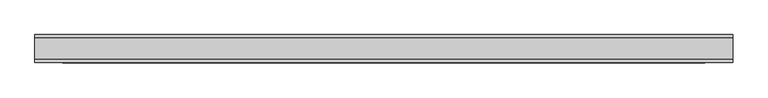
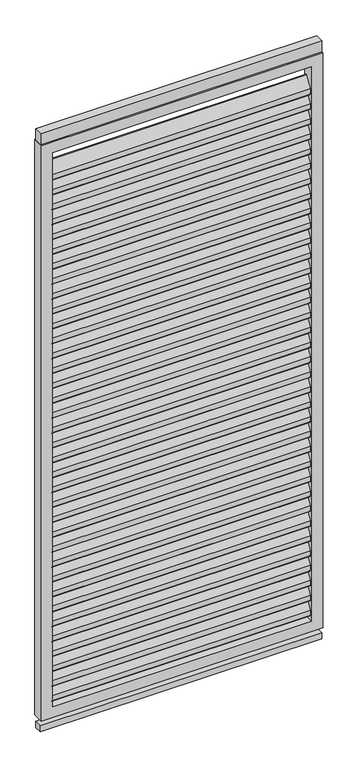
"""IFC4 building model written with IfcOpenShell, lengths in millimetres: proxy geometry, Renson_Camargue_Loggia_Paro_Privacy_Aluminium : Renson_Camargue_Loggia_Paro_Privacy_Aluminium."""

from ifc_helpers import new_model, si_unit, point, frame, frame_2d, origin, origin_with_axes, place, context, project, spatial, polyline, circle_curve, trimmed, segment, composite_curve, outline, extrude, source, transform, mapped, element, save


def generic_models_be22ee1f(model_context):
    return source(origin(), model_context, "Body", "SweptSolid", [
        extrude(outline(composite_curve([segment(trimmed(circle_curve(frame_2d((12.6675921, 2117.7067127)), 3.0), [point((10.1515804, 2119.3406298))], [point((15.6675921, 2117.7067127))], False, "CARTESIAN"), True, "CONTINUOUS"), segment(polyline([(15.6675921, 2117.7067127), (15.6675921, 2099.3459282)]), True, "CONTINUOUS"), segment(trimmed(circle_curve(frame_2d((12.6675921, 2099.3459282)), 3.0), [point((15.6675921, 2099.3459282))], [point((15.1836038, 2097.7120111))], False, "CARTESIAN"), True, "CONTINUOUS"), segment(polyline([(15.1836038, 2097.7120111), (-8.8163962, 2060.7552519)]), True, "CONTINUOUS"), segment(trimmed(circle_curve(frame_2d((-11.3324079, 2062.389169)), 3.0), [point((-8.8163962, 2060.7552519))], [point((-14.3324079, 2062.389169))], False, "CARTESIAN"), True, "CONTINUOUS"), segment(polyline([(-14.3324079, 2062.389169), (-14.3324079, 2081.6385941), (10.1515804, 2119.3406298)]), True, "CONTINUOUS")], self_intersect=False)), frame((-460.0, 0.0, 0.0), z_axis=(1.0, 0.0, 0.0), x_axis=(0.0, 1.0, 0.0)), (0.0, 0.0, 1.0), 920.0),
        extrude(outline(composite_curve([segment(trimmed(circle_curve(frame_2d((12.6675921, 2061.7347145)), 3.0), [point((10.1515804, 2063.3686316))], [point((15.6675921, 2061.7347145))], False, "CARTESIAN"), True, "CONTINUOUS"), segment(polyline([(15.6675921, 2061.7347145), (15.6675921, 2043.3739299)]), True, "CONTINUOUS"), segment(trimmed(circle_curve(frame_2d((12.6675921, 2043.3739299)), 3.0), [point((15.6675921, 2043.3739299))], [point((15.1836038, 2041.7400128))], False, "CARTESIAN"), True, "CONTINUOUS"), segment(polyline([(15.1836038, 2041.7400128), (-8.8163962, 2004.7832537)]), True, "CONTINUOUS"), segment(trimmed(circle_curve(frame_2d((-11.3324079, 2006.4171708)), 3.0), [point((-8.8163962, 2004.7832537))], [point((-14.3324079, 2006.4171708))], False, "CARTESIAN"), True, "CONTINUOUS"), segment(polyline([(-14.3324079, 2006.4171708), (-14.3324079, 2025.6665958), (10.1515804, 2063.3686316)]), True, "CONTINUOUS")], self_intersect=False)), frame((-460.0, 0.0, 0.0), z_axis=(1.0, 0.0, 0.0), x_axis=(0.0, 1.0, 0.0)), (0.0, 0.0, 1.0), 920.0),
        extrude(outline(composite_curve([segment(trimmed(circle_curve(frame_2d((12.6675921, 2005.7627162)), 3.0), [point((10.1515804, 2007.3966333))], [point((15.6675921, 2005.7627162))], False, "CARTESIAN"), True, "CONTINUOUS"), segment(polyline([(15.6675921, 2005.7627162), (15.6675921, 1987.4019316)]), True, "CONTINUOUS"), segment(trimmed(circle_curve(frame_2d((12.6675921, 1987.4019316)), 3.0), [point((15.6675921, 1987.4019316))], [point((15.1836038, 1985.7680145))], False, "CARTESIAN"), True, "CONTINUOUS"), segment(polyline([(15.1836038, 1985.7680145), (-8.8163962, 1948.8112554)]), True, "CONTINUOUS"), segment(trimmed(circle_curve(frame_2d((-11.3324079, 1950.4451725)), 3.0), [point((-8.8163962, 1948.8112554))], [point((-14.3324079, 1950.4451725))], False, "CARTESIAN"), True, "CONTINUOUS"), segment(polyline([(-14.3324079, 1950.4451725), (-14.3324079, 1969.6945976), (10.1515804, 2007.3966333)]), True, "CONTINUOUS")], self_intersect=False)), frame((-460.0, 0.0, 0.0), z_axis=(1.0, 0.0, 0.0), x_axis=(0.0, 1.0, 0.0)), (0.0, 0.0, 1.0), 920.0),
        extrude(outline(composite_curve([segment(trimmed(circle_curve(frame_2d((12.6675921, 1949.790718)), 3.0), [point((10.1515804, 1951.4246351))], [point((15.6675921, 1949.790718))], False, "CARTESIAN"), True, "CONTINUOUS"), segment(polyline([(15.6675921, 1949.790718), (15.6675921, 1931.4299334)]), True, "CONTINUOUS"), segment(trimmed(circle_curve(frame_2d((12.6675921, 1931.4299334)), 3.0), [point((15.6675921, 1931.4299334))], [point((15.1836038, 1929.7960163))], False, "CARTESIAN"), True, "CONTINUOUS"), segment(polyline([(15.1836038, 1929.7960163), (-8.8163962, 1892.8392571)]), True, "CONTINUOUS"), segment(trimmed(circle_curve(frame_2d((-11.3324079, 1894.4731742)), 3.0), [point((-8.8163962, 1892.8392571))], [point((-14.3324079, 1894.4731742))], False, "CARTESIAN"), True, "CONTINUOUS"), segment(polyline([(-14.3324079, 1894.4731742), (-14.3324079, 1913.7225993), (10.1515804, 1951.4246351)]), True, "CONTINUOUS")], self_intersect=False)), frame((-460.0, 0.0, 0.0), z_axis=(1.0, 0.0, 0.0), x_axis=(0.0, 1.0, 0.0)), (0.0, 0.0, 1.0), 920.0),
        extrude(outline(composite_curve([segment(trimmed(circle_curve(frame_2d((12.6675921, 1893.8187197)), 3.0), [point((10.1515804, 1895.4526368))], [point((15.6675921, 1893.8187197))], False, "CARTESIAN"), True, "CONTINUOUS"), segment(polyline([(15.6675921, 1893.8187197), (15.6675921, 1875.4579351)]), True, "CONTINUOUS"), segment(trimmed(circle_curve(frame_2d((12.6675921, 1875.4579351)), 3.0), [point((15.6675921, 1875.4579351))], [point((15.1836038, 1873.824018))], False, "CARTESIAN"), True, "CONTINUOUS"), segment(polyline([(15.1836038, 1873.824018), (-8.8163962, 1836.8672589)]), True, "CONTINUOUS"), segment(trimmed(circle_curve(frame_2d((-11.3324079, 1838.501176)), 3.0), [point((-8.8163962, 1836.8672589))], [point((-14.3324079, 1838.501176))], False, "CARTESIAN"), True, "CONTINUOUS"), segment(polyline([(-14.3324079, 1838.501176), (-14.3324079, 1857.7506011), (10.1515804, 1895.4526368)]), True, "CONTINUOUS")], self_intersect=False)), frame((-460.0, 0.0, 0.0), z_axis=(1.0, 0.0, 0.0), x_axis=(0.0, 1.0, 0.0)), (0.0, 0.0, 1.0), 920.0),
        extrude(outline(composite_curve([segment(trimmed(circle_curve(frame_2d((12.6675921, 1837.8467214)), 3.0), [point((10.1515804, 1839.4806385))], [point((15.6675921, 1837.8467214))], False, "CARTESIAN"), True, "CONTINUOUS"), segment(polyline([(15.6675921, 1837.8467214), (15.6675921, 1819.4859368)]), True, "CONTINUOUS"), segment(trimmed(circle_curve(frame_2d((12.6675921, 1819.4859368)), 3.0), [point((15.6675921, 1819.4859368))], [point((15.1836038, 1817.8520197))], False, "CARTESIAN"), True, "CONTINUOUS"), segment(polyline([(15.1836038, 1817.8520197), (-8.8163962, 1780.8952606)]), True, "CONTINUOUS"), segment(trimmed(circle_curve(frame_2d((-11.3324079, 1782.5291777)), 3.0), [point((-8.8163962, 1780.8952606))], [point((-14.3324079, 1782.5291777))], False, "CARTESIAN"), True, "CONTINUOUS"), segment(polyline([(-14.3324079, 1782.5291777), (-14.3324079, 1801.7786028), (10.1515804, 1839.4806385)]), True, "CONTINUOUS")], self_intersect=False)), frame((-460.0, 0.0, 0.0), z_axis=(1.0, 0.0, 0.0), x_axis=(0.0, 1.0, 0.0)), (0.0, 0.0, 1.0), 920.0),
        extrude(outline(composite_curve([segment(trimmed(circle_curve(frame_2d((12.6675921, 1781.8747232)), 3.0), [point((10.1515804, 1783.5086403))], [point((15.6675921, 1781.8747232))], False, "CARTESIAN"), True, "CONTINUOUS"), segment(polyline([(15.6675921, 1781.8747232), (15.6675921, 1763.5139386)]), True, "CONTINUOUS"), segment(trimmed(circle_curve(frame_2d((12.6675921, 1763.5139386)), 3.0), [point((15.6675921, 1763.5139386))], [point((15.1836038, 1761.8800215))], False, "CARTESIAN"), True, "CONTINUOUS"), segment(polyline([(15.1836038, 1761.8800215), (-8.8163962, 1724.9232624)]), True, "CONTINUOUS"), segment(trimmed(circle_curve(frame_2d((-11.3324079, 1726.5571795)), 3.0), [point((-8.8163962, 1724.9232624))], [point((-14.3324079, 1726.5571795))], False, "CARTESIAN"), True, "CONTINUOUS"), segment(polyline([(-14.3324079, 1726.5571795), (-14.3324079, 1745.8066045), (10.1515804, 1783.5086403)]), True, "CONTINUOUS")], self_intersect=False)), frame((-460.0, 0.0, 0.0), z_axis=(1.0, 0.0, 0.0), x_axis=(0.0, 1.0, 0.0)), (0.0, 0.0, 1.0), 920.0),
        extrude(outline(composite_curve([segment(trimmed(circle_curve(frame_2d((12.6675921, 1725.9027249)), 3.0), [point((10.1515804, 1727.536642))], [point((15.6675921, 1725.9027249))], False, "CARTESIAN"), True, "CONTINUOUS"), segment(polyline([(15.6675921, 1725.9027249), (15.6675921, 1707.5419403)]), True, "CONTINUOUS"), segment(trimmed(circle_curve(frame_2d((12.6675921, 1707.5419403)), 3.0), [point((15.6675921, 1707.5419403))], [point((15.1836038, 1705.9080232))], False, "CARTESIAN"), True, "CONTINUOUS"), segment(polyline([(15.1836038, 1705.9080232), (-8.8163962, 1668.9512641)]), True, "CONTINUOUS"), segment(trimmed(circle_curve(frame_2d((-11.3324079, 1670.5851812)), 3.0), [point((-8.8163962, 1668.9512641))], [point((-14.3324079, 1670.5851812))], False, "CARTESIAN"), True, "CONTINUOUS"), segment(polyline([(-14.3324079, 1670.5851812), (-14.3324079, 1689.8346063), (10.1515804, 1727.536642)]), True, "CONTINUOUS")], self_intersect=False)), frame((-460.0, 0.0, 0.0), z_axis=(1.0, 0.0, 0.0), x_axis=(0.0, 1.0, 0.0)), (0.0, 0.0, 1.0), 920.0),
        extrude(outline(composite_curve([segment(trimmed(circle_curve(frame_2d((12.6675921, 1669.9307267)), 3.0), [point((10.1515804, 1671.5646438))], [point((15.6675921, 1669.9307267))], False, "CARTESIAN"), True, "CONTINUOUS"), segment(polyline([(15.6675921, 1669.9307267), (15.6675921, 1651.5699421)]), True, "CONTINUOUS"), segment(trimmed(circle_curve(frame_2d((12.6675921, 1651.5699421)), 3.0), [point((15.6675921, 1651.5699421))], [point((15.1836038, 1649.936025))], False, "CARTESIAN"), True, "CONTINUOUS"), segment(polyline([(15.1836038, 1649.936025), (-8.8163962, 1612.9792658)]), True, "CONTINUOUS"), segment(trimmed(circle_curve(frame_2d((-11.3324079, 1614.6131829)), 3.0), [point((-8.8163962, 1612.9792658))], [point((-14.3324079, 1614.6131829))], False, "CARTESIAN"), True, "CONTINUOUS"), segment(polyline([(-14.3324079, 1614.6131829), (-14.3324079, 1633.862608), (10.1515804, 1671.5646438)]), True, "CONTINUOUS")], self_intersect=False)), frame((-460.0, 0.0, 0.0), z_axis=(1.0, 0.0, 0.0), x_axis=(0.0, 1.0, 0.0)), (0.0, 0.0, 1.0), 920.0),
        extrude(outline(composite_curve([segment(trimmed(circle_curve(frame_2d((12.6675921, 1613.9587284)), 3.0), [point((10.1515804, 1615.5926455))], [point((15.6675921, 1613.9587284))], False, "CARTESIAN"), True, "CONTINUOUS"), segment(polyline([(15.6675921, 1613.9587284), (15.6675921, 1595.5979438)]), True, "CONTINUOUS"), segment(trimmed(circle_curve(frame_2d((12.6675921, 1595.5979438)), 3.0), [point((15.6675921, 1595.5979438))], [point((15.1836038, 1593.9640267))], False, "CARTESIAN"), True, "CONTINUOUS"), segment(polyline([(15.1836038, 1593.9640267), (-8.8163962, 1557.0072676)]), True, "CONTINUOUS"), segment(trimmed(circle_curve(frame_2d((-11.3324079, 1558.6411847)), 3.0), [point((-8.8163962, 1557.0072676))], [point((-14.3324079, 1558.6411847))], False, "CARTESIAN"), True, "CONTINUOUS"), segment(polyline([(-14.3324079, 1558.6411847), (-14.3324079, 1577.8906097), (10.1515804, 1615.5926455)]), True, "CONTINUOUS")], self_intersect=False)), frame((-460.0, 0.0, 0.0), z_axis=(1.0, 0.0, 0.0), x_axis=(0.0, 1.0, 0.0)), (0.0, 0.0, 1.0), 920.0),
        extrude(outline(composite_curve([segment(trimmed(circle_curve(frame_2d((12.6675921, 1557.9867301)), 3.0), [point((10.1515804, 1559.6206472))], [point((15.6675921, 1557.9867301))], False, "CARTESIAN"), True, "CONTINUOUS"), segment(polyline([(15.6675921, 1557.9867301), (15.6675921, 1539.6259455)]), True, "CONTINUOUS"), segment(trimmed(circle_curve(frame_2d((12.6675921, 1539.6259455)), 3.0), [point((15.6675921, 1539.6259455))], [point((15.1836038, 1537.9920284))], False, "CARTESIAN"), True, "CONTINUOUS"), segment(polyline([(15.1836038, 1537.9920284), (-8.8163962, 1501.0352693)]), True, "CONTINUOUS"), segment(trimmed(circle_curve(frame_2d((-11.3324079, 1502.6691864)), 3.0), [point((-8.8163962, 1501.0352693))], [point((-14.3324079, 1502.6691864))], False, "CARTESIAN"), True, "CONTINUOUS"), segment(polyline([(-14.3324079, 1502.6691864), (-14.3324079, 1521.9186115), (10.1515804, 1559.6206472)]), True, "CONTINUOUS")], self_intersect=False)), frame((-460.0, 0.0, 0.0), z_axis=(1.0, 0.0, 0.0), x_axis=(0.0, 1.0, 0.0)), (0.0, 0.0, 1.0), 920.0),
        extrude(outline(composite_curve([segment(trimmed(circle_curve(frame_2d((12.6675921, 1502.0147319)), 3.0), [point((10.1515804, 1503.648649))], [point((15.6675921, 1502.0147319))], False, "CARTESIAN"), True, "CONTINUOUS"), segment(polyline([(15.6675921, 1502.0147319), (15.6675921, 1483.6539473)]), True, "CONTINUOUS"), segment(trimmed(circle_curve(frame_2d((12.6675921, 1483.6539473)), 3.0), [point((15.6675921, 1483.6539473))], [point((15.1836038, 1482.0200302))], False, "CARTESIAN"), True, "CONTINUOUS"), segment(polyline([(15.1836038, 1482.0200302), (-8.8163962, 1445.063271)]), True, "CONTINUOUS"), segment(trimmed(circle_curve(frame_2d((-11.3324079, 1446.6971881)), 3.0), [point((-8.8163962, 1445.063271))], [point((-14.3324079, 1446.6971881))], False, "CARTESIAN"), True, "CONTINUOUS"), segment(polyline([(-14.3324079, 1446.6971881), (-14.3324079, 1465.9466132), (10.1515804, 1503.648649)]), True, "CONTINUOUS")], self_intersect=False)), frame((-460.0, 0.0, 0.0), z_axis=(1.0, 0.0, 0.0), x_axis=(0.0, 1.0, 0.0)), (0.0, 0.0, 1.0), 920.0),
        extrude(outline(composite_curve([segment(trimmed(circle_curve(frame_2d((12.6675921, 1446.0427336)), 3.0), [point((10.1515804, 1447.6766507))], [point((15.6675921, 1446.0427336))], False, "CARTESIAN"), True, "CONTINUOUS"), segment(polyline([(15.6675921, 1446.0427336), (15.6675921, 1427.681949)]), True, "CONTINUOUS"), segment(trimmed(circle_curve(frame_2d((12.6675921, 1427.681949)), 3.0), [point((15.6675921, 1427.681949))], [point((15.1836038, 1426.0480319))], False, "CARTESIAN"), True, "CONTINUOUS"), segment(polyline([(15.1836038, 1426.0480319), (-8.8163962, 1389.0912728)]), True, "CONTINUOUS"), segment(trimmed(circle_curve(frame_2d((-11.3324079, 1390.7251899)), 3.0), [point((-8.8163962, 1389.0912728))], [point((-14.3324079, 1390.7251899))], False, "CARTESIAN"), True, "CONTINUOUS"), segment(polyline([(-14.3324079, 1390.7251899), (-14.3324079, 1409.974615), (10.1515804, 1447.6766507)]), True, "CONTINUOUS")], self_intersect=False)), frame((-460.0, 0.0, 0.0), z_axis=(1.0, 0.0, 0.0), x_axis=(0.0, 1.0, 0.0)), (0.0, 0.0, 1.0), 920.0),
        extrude(outline(composite_curve([segment(trimmed(circle_curve(frame_2d((12.6675921, 1390.0707353)), 3.0), [point((10.1515804, 1391.7046525))], [point((15.6675921, 1390.0707353))], False, "CARTESIAN"), True, "CONTINUOUS"), segment(polyline([(15.6675921, 1390.0707353), (15.6675921, 1371.7099508)]), True, "CONTINUOUS"), segment(trimmed(circle_curve(frame_2d((12.6675921, 1371.7099508)), 3.0), [point((15.6675921, 1371.7099508))], [point((15.1836038, 1370.0760337))], False, "CARTESIAN"), True, "CONTINUOUS"), segment(polyline([(15.1836038, 1370.0760337), (-8.8163962, 1333.1192745)]), True, "CONTINUOUS"), segment(trimmed(circle_curve(frame_2d((-11.3324079, 1334.7531916)), 3.0), [point((-8.8163962, 1333.1192745))], [point((-14.3324079, 1334.7531916))], False, "CARTESIAN"), True, "CONTINUOUS"), segment(polyline([(-14.3324079, 1334.7531916), (-14.3324079, 1354.0026167), (10.1515804, 1391.7046525)]), True, "CONTINUOUS")], self_intersect=False)), frame((-460.0, 0.0, 0.0), z_axis=(1.0, 0.0, 0.0), x_axis=(0.0, 1.0, 0.0)), (0.0, 0.0, 1.0), 920.0),
        extrude(outline(composite_curve([segment(trimmed(circle_curve(frame_2d((12.6675921, 1334.0987371)), 3.0), [point((10.1515804, 1335.7326542))], [point((15.6675921, 1334.0987371))], False, "CARTESIAN"), True, "CONTINUOUS"), segment(polyline([(15.6675921, 1334.0987371), (15.6675921, 1315.7379525)]), True, "CONTINUOUS"), segment(trimmed(circle_curve(frame_2d((12.6675921, 1315.7379525)), 3.0), [point((15.6675921, 1315.7379525))], [point((15.1836038, 1314.1040354))], False, "CARTESIAN"), True, "CONTINUOUS"), segment(polyline([(15.1836038, 1314.1040354), (-8.8163962, 1277.1472763)]), True, "CONTINUOUS"), segment(trimmed(circle_curve(frame_2d((-11.3324079, 1278.7811934)), 3.0), [point((-8.8163962, 1277.1472763))], [point((-14.3324079, 1278.7811934))], False, "CARTESIAN"), True, "CONTINUOUS"), segment(polyline([(-14.3324079, 1278.7811934), (-14.3324079, 1298.0306184), (10.1515804, 1335.7326542)]), True, "CONTINUOUS")], self_intersect=False)), frame((-460.0, 0.0, 0.0), z_axis=(1.0, 0.0, 0.0), x_axis=(0.0, 1.0, 0.0)), (0.0, 0.0, 1.0), 920.0),
        extrude(outline(composite_curve([segment(trimmed(circle_curve(frame_2d((12.6675921, 1278.1267388)), 3.0), [point((10.1515804, 1279.7606559))], [point((15.6675921, 1278.1267388))], False, "CARTESIAN"), True, "CONTINUOUS"), segment(polyline([(15.6675921, 1278.1267388), (15.6675921, 1259.7659542)]), True, "CONTINUOUS"), segment(trimmed(circle_curve(frame_2d((12.6675921, 1259.7659542)), 3.0), [point((15.6675921, 1259.7659542))], [point((15.1836038, 1258.1320371))], False, "CARTESIAN"), True, "CONTINUOUS"), segment(polyline([(15.1836038, 1258.1320371), (-8.8163962, 1221.175278)]), True, "CONTINUOUS"), segment(trimmed(circle_curve(frame_2d((-11.3324079, 1222.8091951)), 3.0), [point((-8.8163962, 1221.175278))], [point((-14.3324079, 1222.8091951))], False, "CARTESIAN"), True, "CONTINUOUS"), segment(polyline([(-14.3324079, 1222.8091951), (-14.3324079, 1242.0586202), (10.1515804, 1279.7606559)]), True, "CONTINUOUS")], self_intersect=False)), frame((-460.0, 0.0, 0.0), z_axis=(1.0, 0.0, 0.0), x_axis=(0.0, 1.0, 0.0)), (0.0, 0.0, 1.0), 920.0),
        extrude(outline(composite_curve([segment(trimmed(circle_curve(frame_2d((12.6675921, 1222.1547406)), 3.0), [point((10.1515804, 1223.7886577))], [point((15.6675921, 1222.1547406))], False, "CARTESIAN"), True, "CONTINUOUS"), segment(polyline([(15.6675921, 1222.1547406), (15.6675921, 1203.793956)]), True, "CONTINUOUS"), segment(trimmed(circle_curve(frame_2d((12.6675921, 1203.793956)), 3.0), [point((15.6675921, 1203.793956))], [point((15.1836038, 1202.1600389))], False, "CARTESIAN"), True, "CONTINUOUS"), segment(polyline([(15.1836038, 1202.1600389), (-8.8163962, 1165.2032797)]), True, "CONTINUOUS"), segment(trimmed(circle_curve(frame_2d((-11.3324079, 1166.8371968)), 3.0), [point((-8.8163962, 1165.2032797))], [point((-14.3324079, 1166.8371968))], False, "CARTESIAN"), True, "CONTINUOUS"), segment(polyline([(-14.3324079, 1166.8371968), (-14.3324079, 1186.0866219), (10.1515804, 1223.7886577)]), True, "CONTINUOUS")], self_intersect=False)), frame((-460.0, 0.0, 0.0), z_axis=(1.0, 0.0, 0.0), x_axis=(0.0, 1.0, 0.0)), (0.0, 0.0, 1.0), 920.0),
        extrude(outline(composite_curve([segment(trimmed(circle_curve(frame_2d((12.6675921, 1166.1827423)), 3.0), [point((10.1515804, 1167.8166594))], [point((15.6675921, 1166.1827423))], False, "CARTESIAN"), True, "CONTINUOUS"), segment(polyline([(15.6675921, 1166.1827423), (15.6675921, 1147.8219577)]), True, "CONTINUOUS"), segment(trimmed(circle_curve(frame_2d((12.6675921, 1147.8219577)), 3.0), [point((15.6675921, 1147.8219577))], [point((15.1836038, 1146.1880406))], False, "CARTESIAN"), True, "CONTINUOUS"), segment(polyline([(15.1836038, 1146.1880406), (-8.8163962, 1109.2312815)]), True, "CONTINUOUS"), segment(trimmed(circle_curve(frame_2d((-11.3324079, 1110.8651986)), 3.0), [point((-8.8163962, 1109.2312815))], [point((-14.3324079, 1110.8651986))], False, "CARTESIAN"), True, "CONTINUOUS"), segment(polyline([(-14.3324079, 1110.8651986), (-14.3324079, 1130.1146237), (10.1515804, 1167.8166594)]), True, "CONTINUOUS")], self_intersect=False)), frame((-460.0, 0.0, 0.0), z_axis=(1.0, 0.0, 0.0), x_axis=(0.0, 1.0, 0.0)), (0.0, 0.0, 1.0), 920.0),
        extrude(outline(composite_curve([segment(trimmed(circle_curve(frame_2d((12.6675921, 1110.210744)), 3.0), [point((10.1515804, 1111.8446611))], [point((15.6675921, 1110.210744))], False, "CARTESIAN"), True, "CONTINUOUS"), segment(polyline([(15.6675921, 1110.210744), (15.6675921, 1091.8499595)]), True, "CONTINUOUS"), segment(trimmed(circle_curve(frame_2d((12.6675921, 1091.8499595)), 3.0), [point((15.6675921, 1091.8499595))], [point((15.1836038, 1090.2160423))], False, "CARTESIAN"), True, "CONTINUOUS"), segment(polyline([(15.1836038, 1090.2160423), (-8.8163962, 1053.2592832)]), True, "CONTINUOUS"), segment(trimmed(circle_curve(frame_2d((-11.3324079, 1054.8932003)), 3.0), [point((-8.8163962, 1053.2592832))], [point((-14.3324079, 1054.8932003))], False, "CARTESIAN"), True, "CONTINUOUS"), segment(polyline([(-14.3324079, 1054.8932003), (-14.3324079, 1074.1426254), (10.1515804, 1111.8446611)]), True, "CONTINUOUS")], self_intersect=False)), frame((-460.0, 0.0, 0.0), z_axis=(1.0, 0.0, 0.0), x_axis=(0.0, 1.0, 0.0)), (0.0, 0.0, 1.0), 920.0),
        extrude(outline(composite_curve([segment(trimmed(circle_curve(frame_2d((12.6675921, 1054.2387458)), 3.0), [point((10.1515804, 1055.8726629))], [point((15.6675921, 1054.2387458))], False, "CARTESIAN"), True, "CONTINUOUS"), segment(polyline([(15.6675921, 1054.2387458), (15.6675921, 1035.8779612)]), True, "CONTINUOUS"), segment(trimmed(circle_curve(frame_2d((12.6675921, 1035.8779612)), 3.0), [point((15.6675921, 1035.8779612))], [point((15.1836038, 1034.2440441))], False, "CARTESIAN"), True, "CONTINUOUS"), segment(polyline([(15.1836038, 1034.2440441), (-8.8163962, 997.287285)]), True, "CONTINUOUS"), segment(trimmed(circle_curve(frame_2d((-11.3324079, 998.9212021)), 3.0), [point((-8.8163962, 997.287285))], [point((-14.3324079, 998.9212021))], False, "CARTESIAN"), True, "CONTINUOUS"), segment(polyline([(-14.3324079, 998.9212021), (-14.3324079, 1018.1706271), (10.1515804, 1055.8726629)]), True, "CONTINUOUS")], self_intersect=False)), frame((-460.0, 0.0, 0.0), z_axis=(1.0, 0.0, 0.0), x_axis=(0.0, 1.0, 0.0)), (0.0, 0.0, 1.0), 920.0),
        extrude(outline(composite_curve([segment(trimmed(circle_curve(frame_2d((12.6675921, 998.2667475)), 3.0), [point((10.1515804, 999.9006646))], [point((15.6675921, 998.2667475))], False, "CARTESIAN"), True, "CONTINUOUS"), segment(polyline([(15.6675921, 998.2667475), (15.6675921, 979.9059629)]), True, "CONTINUOUS"), segment(trimmed(circle_curve(frame_2d((12.6675921, 979.9059629)), 3.0), [point((15.6675921, 979.9059629))], [point((15.1836038, 978.2720458))], False, "CARTESIAN"), True, "CONTINUOUS"), segment(polyline([(15.1836038, 978.2720458), (-8.8163962, 941.3152867)]), True, "CONTINUOUS"), segment(trimmed(circle_curve(frame_2d((-11.3324079, 942.9492038)), 3.0), [point((-8.8163962, 941.3152867))], [point((-14.3324079, 942.9492038))], False, "CARTESIAN"), True, "CONTINUOUS"), segment(polyline([(-14.3324079, 942.9492038), (-14.3324079, 962.1986289), (10.1515804, 999.9006646)]), True, "CONTINUOUS")], self_intersect=False)), frame((-460.0, 0.0, 0.0), z_axis=(1.0, 0.0, 0.0), x_axis=(0.0, 1.0, 0.0)), (0.0, 0.0, 1.0), 920.0),
        extrude(outline(composite_curve([segment(trimmed(circle_curve(frame_2d((12.6675921, 942.2947493)), 3.0), [point((10.1515804, 943.9286664))], [point((15.6675921, 942.2947493))], False, "CARTESIAN"), True, "CONTINUOUS"), segment(polyline([(15.6675921, 942.2947493), (15.6675921, 923.9339647)]), True, "CONTINUOUS"), segment(trimmed(circle_curve(frame_2d((12.6675921, 923.9339647)), 3.0), [point((15.6675921, 923.9339647))], [point((15.1836038, 922.3000476))], False, "CARTESIAN"), True, "CONTINUOUS"), segment(polyline([(15.1836038, 922.3000476), (-8.8163962, 885.3432884)]), True, "CONTINUOUS"), segment(trimmed(circle_curve(frame_2d((-11.3324079, 886.9772055)), 3.0), [point((-8.8163962, 885.3432884))], [point((-14.3324079, 886.9772055))], False, "CARTESIAN"), True, "CONTINUOUS"), segment(polyline([(-14.3324079, 886.9772055), (-14.3324079, 906.2266306), (10.1515804, 943.9286664)]), True, "CONTINUOUS")], self_intersect=False)), frame((-460.0, 0.0, 0.0), z_axis=(1.0, 0.0, 0.0), x_axis=(0.0, 1.0, 0.0)), (0.0, 0.0, 1.0), 920.0),
        extrude(outline(composite_curve([segment(trimmed(circle_curve(frame_2d((12.6675921, 886.322751)), 3.0), [point((10.1515804, 887.9566681))], [point((15.6675921, 886.322751))], False, "CARTESIAN"), True, "CONTINUOUS"), segment(polyline([(15.6675921, 886.322751), (15.6675921, 867.9619664)]), True, "CONTINUOUS"), segment(trimmed(circle_curve(frame_2d((12.6675921, 867.9619664)), 3.0), [point((15.6675921, 867.9619664))], [point((15.1836038, 866.3280493))], False, "CARTESIAN"), True, "CONTINUOUS"), segment(polyline([(15.1836038, 866.3280493), (-8.8163962, 829.3712902)]), True, "CONTINUOUS"), segment(trimmed(circle_curve(frame_2d((-11.3324079, 831.0052073)), 3.0), [point((-8.8163962, 829.3712902))], [point((-14.3324079, 831.0052073))], False, "CARTESIAN"), True, "CONTINUOUS"), segment(polyline([(-14.3324079, 831.0052073), (-14.3324079, 850.2546323), (10.1515804, 887.9566681)]), True, "CONTINUOUS")], self_intersect=False)), frame((-460.0, 0.0, 0.0), z_axis=(1.0, 0.0, 0.0), x_axis=(0.0, 1.0, 0.0)), (0.0, 0.0, 1.0), 920.0),
        extrude(outline(composite_curve([segment(trimmed(circle_curve(frame_2d((12.6675921, 830.3507527)), 3.0), [point((10.1515804, 831.9846698))], [point((15.6675921, 830.3507527))], False, "CARTESIAN"), True, "CONTINUOUS"), segment(polyline([(15.6675921, 830.3507527), (15.6675921, 811.9899681)]), True, "CONTINUOUS"), segment(trimmed(circle_curve(frame_2d((12.6675921, 811.9899681)), 3.0), [point((15.6675921, 811.9899681))], [point((15.1836038, 810.356051))], False, "CARTESIAN"), True, "CONTINUOUS"), segment(polyline([(15.1836038, 810.356051), (-8.8163962, 773.3992919)]), True, "CONTINUOUS"), segment(trimmed(circle_curve(frame_2d((-11.3324079, 775.033209)), 3.0), [point((-8.8163962, 773.3992919))], [point((-14.3324079, 775.033209))], False, "CARTESIAN"), True, "CONTINUOUS"), segment(polyline([(-14.3324079, 775.033209), (-14.3324079, 794.2826341), (10.1515804, 831.9846698)]), True, "CONTINUOUS")], self_intersect=False)), frame((-460.0, 0.0, 0.0), z_axis=(1.0, 0.0, 0.0), x_axis=(0.0, 1.0, 0.0)), (0.0, 0.0, 1.0), 920.0),
        extrude(outline(composite_curve([segment(trimmed(circle_curve(frame_2d((12.6675921, 774.3787545)), 3.0), [point((10.1515804, 776.0126716))], [point((15.6675921, 774.3787545))], False, "CARTESIAN"), True, "CONTINUOUS"), segment(polyline([(15.6675921, 774.3787545), (15.6675921, 756.0179699)]), True, "CONTINUOUS"), segment(trimmed(circle_curve(frame_2d((12.6675921, 756.0179699)), 3.0), [point((15.6675921, 756.0179699))], [point((15.1836038, 754.3840528))], False, "CARTESIAN"), True, "CONTINUOUS"), segment(polyline([(15.1836038, 754.3840528), (-8.8163962, 717.4272936)]), True, "CONTINUOUS"), segment(trimmed(circle_curve(frame_2d((-11.3324079, 719.0612108)), 3.0), [point((-8.8163962, 717.4272936))], [point((-14.3324079, 719.0612108))], False, "CARTESIAN"), True, "CONTINUOUS"), segment(polyline([(-14.3324079, 719.0612108), (-14.3324079, 738.3106358), (10.1515804, 776.0126716)]), True, "CONTINUOUS")], self_intersect=False)), frame((-460.0, 0.0, 0.0), z_axis=(1.0, 0.0, 0.0), x_axis=(0.0, 1.0, 0.0)), (0.0, 0.0, 1.0), 920.0),
        extrude(outline(composite_curve([segment(trimmed(circle_curve(frame_2d((12.6675921, 718.4067562)), 3.0), [point((10.1515804, 720.0406733))], [point((15.6675921, 718.4067562))], False, "CARTESIAN"), True, "CONTINUOUS"), segment(polyline([(15.6675921, 718.4067562), (15.6675921, 700.0459716)]), True, "CONTINUOUS"), segment(trimmed(circle_curve(frame_2d((12.6675921, 700.0459716)), 3.0), [point((15.6675921, 700.0459716))], [point((15.1836038, 698.4120545))], False, "CARTESIAN"), True, "CONTINUOUS"), segment(polyline([(15.1836038, 698.4120545), (-8.8163962, 661.4552954)]), True, "CONTINUOUS"), segment(trimmed(circle_curve(frame_2d((-11.3324079, 663.0892125)), 3.0), [point((-8.8163962, 661.4552954))], [point((-14.3324079, 663.0892125))], False, "CARTESIAN"), True, "CONTINUOUS"), segment(polyline([(-14.3324079, 663.0892125), (-14.3324079, 682.3386376), (10.1515804, 720.0406733)]), True, "CONTINUOUS")], self_intersect=False)), frame((-460.0, 0.0, 0.0), z_axis=(1.0, 0.0, 0.0), x_axis=(0.0, 1.0, 0.0)), (0.0, 0.0, 1.0), 920.0),
        extrude(outline(composite_curve([segment(trimmed(circle_curve(frame_2d((12.6675921, 662.4347579)), 3.0), [point((10.1515804, 664.0686751))], [point((15.6675921, 662.4347579))], False, "CARTESIAN"), True, "CONTINUOUS"), segment(polyline([(15.6675921, 662.4347579), (15.6675921, 644.0739734)]), True, "CONTINUOUS"), segment(trimmed(circle_curve(frame_2d((12.6675921, 644.0739734)), 3.0), [point((15.6675921, 644.0739734))], [point((15.1836038, 642.4400563))], False, "CARTESIAN"), True, "CONTINUOUS"), segment(polyline([(15.1836038, 642.4400563), (-8.8163962, 605.4832971)]), True, "CONTINUOUS"), segment(trimmed(circle_curve(frame_2d((-11.3324079, 607.1172142)), 3.0), [point((-8.8163962, 605.4832971))], [point((-14.3324079, 607.1172142))], False, "CARTESIAN"), True, "CONTINUOUS"), segment(polyline([(-14.3324079, 607.1172142), (-14.3324079, 626.3666393), (10.1515804, 664.0686751)]), True, "CONTINUOUS")], self_intersect=False)), frame((-460.0, 0.0, 0.0), z_axis=(1.0, 0.0, 0.0), x_axis=(0.0, 1.0, 0.0)), (0.0, 0.0, 1.0), 920.0),
        extrude(outline(composite_curve([segment(trimmed(circle_curve(frame_2d((12.6675921, 606.4627597)), 3.0), [point((10.1515804, 608.0966768))], [point((15.6675921, 606.4627597))], False, "CARTESIAN"), True, "CONTINUOUS"), segment(polyline([(15.6675921, 606.4627597), (15.6675921, 588.1019751)]), True, "CONTINUOUS"), segment(trimmed(circle_curve(frame_2d((12.6675921, 588.1019751)), 3.0), [point((15.6675921, 588.1019751))], [point((15.1836038, 586.468058))], False, "CARTESIAN"), True, "CONTINUOUS"), segment(polyline([(15.1836038, 586.468058), (-8.8163962, 549.5112989)]), True, "CONTINUOUS"), segment(trimmed(circle_curve(frame_2d((-11.3324079, 551.145216)), 3.0), [point((-8.8163962, 549.5112989))], [point((-14.3324079, 551.145216))], False, "CARTESIAN"), True, "CONTINUOUS"), segment(polyline([(-14.3324079, 551.145216), (-14.3324079, 570.394641), (10.1515804, 608.0966768)]), True, "CONTINUOUS")], self_intersect=False)), frame((-460.0, 0.0, 0.0), z_axis=(1.0, 0.0, 0.0), x_axis=(0.0, 1.0, 0.0)), (0.0, 0.0, 1.0), 920.0),
        extrude(outline(composite_curve([segment(trimmed(circle_curve(frame_2d((12.6675921, 550.4907614)), 3.0), [point((10.1515804, 552.1246785))], [point((15.6675921, 550.4907614))], False, "CARTESIAN"), True, "CONTINUOUS"), segment(polyline([(15.6675921, 550.4907614), (15.6675921, 532.1299768)]), True, "CONTINUOUS"), segment(trimmed(circle_curve(frame_2d((12.6675921, 532.1299768)), 3.0), [point((15.6675921, 532.1299768))], [point((15.1836038, 530.4960597))], False, "CARTESIAN"), True, "CONTINUOUS"), segment(polyline([(15.1836038, 530.4960597), (-8.8163962, 493.5393006)]), True, "CONTINUOUS"), segment(trimmed(circle_curve(frame_2d((-11.3324079, 495.1732177)), 3.0), [point((-8.8163962, 493.5393006))], [point((-14.3324079, 495.1732177))], False, "CARTESIAN"), True, "CONTINUOUS"), segment(polyline([(-14.3324079, 495.1732177), (-14.3324079, 514.4226428), (10.1515804, 552.1246785)]), True, "CONTINUOUS")], self_intersect=False)), frame((-460.0, 0.0, 0.0), z_axis=(1.0, 0.0, 0.0), x_axis=(0.0, 1.0, 0.0)), (0.0, 0.0, 1.0), 920.0),
        extrude(outline(composite_curve([segment(trimmed(circle_curve(frame_2d((12.6675921, 494.5187632)), 3.0), [point((10.1515804, 496.1526803))], [point((15.6675921, 494.5187632))], False, "CARTESIAN"), True, "CONTINUOUS"), segment(polyline([(15.6675921, 494.5187632), (15.6675921, 476.1579786)]), True, "CONTINUOUS"), segment(trimmed(circle_curve(frame_2d((12.6675921, 476.1579786)), 3.0), [point((15.6675921, 476.1579786))], [point((15.1836038, 474.5240615))], False, "CARTESIAN"), True, "CONTINUOUS"), segment(polyline([(15.1836038, 474.5240615), (-8.8163962, 437.5673023)]), True, "CONTINUOUS"), segment(trimmed(circle_curve(frame_2d((-11.3324079, 439.2012194)), 3.0), [point((-8.8163962, 437.5673023))], [point((-14.3324079, 439.2012194))], False, "CARTESIAN"), True, "CONTINUOUS"), segment(polyline([(-14.3324079, 439.2012194), (-14.3324079, 458.4506445), (10.1515804, 496.1526803)]), True, "CONTINUOUS")], self_intersect=False)), frame((-460.0, 0.0, 0.0), z_axis=(1.0, 0.0, 0.0), x_axis=(0.0, 1.0, 0.0)), (0.0, 0.0, 1.0), 920.0),
        extrude(outline(composite_curve([segment(trimmed(circle_curve(frame_2d((12.6675921, 438.5467649)), 3.0), [point((10.1515804, 440.180682))], [point((15.6675921, 438.5467649))], False, "CARTESIAN"), True, "CONTINUOUS"), segment(polyline([(15.6675921, 438.5467649), (15.6675921, 420.1859803)]), True, "CONTINUOUS"), segment(trimmed(circle_curve(frame_2d((12.6675921, 420.1859803)), 3.0), [point((15.6675921, 420.1859803))], [point((15.1836038, 418.5520632))], False, "CARTESIAN"), True, "CONTINUOUS"), segment(polyline([(15.1836038, 418.5520632), (-8.8163962, 381.5953041)]), True, "CONTINUOUS"), segment(trimmed(circle_curve(frame_2d((-11.3324079, 383.2292212)), 3.0), [point((-8.8163962, 381.5953041))], [point((-14.3324079, 383.2292212))], False, "CARTESIAN"), True, "CONTINUOUS"), segment(polyline([(-14.3324079, 383.2292212), (-14.3324079, 402.4786463), (10.1515804, 440.180682)]), True, "CONTINUOUS")], self_intersect=False)), frame((-460.0, 0.0, 0.0), z_axis=(1.0, 0.0, 0.0), x_axis=(0.0, 1.0, 0.0)), (0.0, 0.0, 1.0), 920.0),
        extrude(outline(composite_curve([segment(trimmed(circle_curve(frame_2d((12.6675921, 382.5747666)), 3.0), [point((10.1515804, 384.2086837))], [point((15.6675921, 382.5747666))], False, "CARTESIAN"), True, "CONTINUOUS"), segment(polyline([(15.6675921, 382.5747666), (15.6675921, 364.2139821)]), True, "CONTINUOUS"), segment(trimmed(circle_curve(frame_2d((12.6675921, 364.2139821)), 3.0), [point((15.6675921, 364.2139821))], [point((15.1836038, 362.580065))], False, "CARTESIAN"), True, "CONTINUOUS"), segment(polyline([(15.1836038, 362.580065), (-8.8163962, 325.6233058)]), True, "CONTINUOUS"), segment(trimmed(circle_curve(frame_2d((-11.3324079, 327.2572229)), 3.0), [point((-8.8163962, 325.6233058))], [point((-14.3324079, 327.2572229))], False, "CARTESIAN"), True, "CONTINUOUS"), segment(polyline([(-14.3324079, 327.2572229), (-14.3324079, 346.506648), (10.1515804, 384.2086837)]), True, "CONTINUOUS")], self_intersect=False)), frame((-460.0, 0.0, 0.0), z_axis=(1.0, 0.0, 0.0), x_axis=(0.0, 1.0, 0.0)), (0.0, 0.0, 1.0), 920.0),
        extrude(outline(composite_curve([segment(trimmed(circle_curve(frame_2d((12.6675921, 326.6027684)), 3.0), [point((10.1515804, 328.2366855))], [point((15.6675921, 326.6027684))], False, "CARTESIAN"), True, "CONTINUOUS"), segment(polyline([(15.6675921, 326.6027684), (15.6675921, 308.2419838)]), True, "CONTINUOUS"), segment(trimmed(circle_curve(frame_2d((12.6675921, 308.2419838)), 3.0), [point((15.6675921, 308.2419838))], [point((15.1836038, 306.6080667))], False, "CARTESIAN"), True, "CONTINUOUS"), segment(polyline([(15.1836038, 306.6080667), (-8.8163962, 269.6513076)]), True, "CONTINUOUS"), segment(trimmed(circle_curve(frame_2d((-11.3324079, 271.2852247)), 3.0), [point((-8.8163962, 269.6513076))], [point((-14.3324079, 271.2852247))], False, "CARTESIAN"), True, "CONTINUOUS"), segment(polyline([(-14.3324079, 271.2852247), (-14.3324079, 290.5346497), (10.1515804, 328.2366855)]), True, "CONTINUOUS")], self_intersect=False)), frame((-460.0, 0.0, 0.0), z_axis=(1.0, 0.0, 0.0), x_axis=(0.0, 1.0, 0.0)), (0.0, 0.0, 1.0), 920.0),
        extrude(outline(composite_curve([segment(trimmed(circle_curve(frame_2d((12.6675921, 270.6307701)), 3.0), [point((10.1515804, 272.2646872))], [point((15.6675921, 270.6307701))], False, "CARTESIAN"), True, "CONTINUOUS"), segment(polyline([(15.6675921, 270.6307701), (15.6675921, 252.2699855)]), True, "CONTINUOUS"), segment(trimmed(circle_curve(frame_2d((12.6675921, 252.2699855)), 3.0), [point((15.6675921, 252.2699855))], [point((15.1836038, 250.6360684))], False, "CARTESIAN"), True, "CONTINUOUS"), segment(polyline([(15.1836038, 250.6360684), (-8.8163962, 213.6793093)]), True, "CONTINUOUS"), segment(trimmed(circle_curve(frame_2d((-11.3324079, 215.3132264)), 3.0), [point((-8.8163962, 213.6793093))], [point((-14.3324079, 215.3132264))], False, "CARTESIAN"), True, "CONTINUOUS"), segment(polyline([(-14.3324079, 215.3132264), (-14.3324079, 234.5626515), (10.1515804, 272.2646872)]), True, "CONTINUOUS")], self_intersect=False)), frame((-460.0, 0.0, 0.0), z_axis=(1.0, 0.0, 0.0), x_axis=(0.0, 1.0, 0.0)), (0.0, 0.0, 1.0), 920.0),
        extrude(outline(composite_curve([segment(trimmed(circle_curve(frame_2d((12.6675921, 214.6587719)), 3.0), [point((10.1515804, 216.292689))], [point((15.6675921, 214.6587719))], False, "CARTESIAN"), True, "CONTINUOUS"), segment(polyline([(15.6675921, 214.6587719), (15.6675921, 196.2979873)]), True, "CONTINUOUS"), segment(trimmed(circle_curve(frame_2d((12.6675921, 196.2979873)), 3.0), [point((15.6675921, 196.2979873))], [point((15.1836038, 194.6640702))], False, "CARTESIAN"), True, "CONTINUOUS"), segment(polyline([(15.1836038, 194.6640702), (-8.8163962, 157.707311)]), True, "CONTINUOUS"), segment(trimmed(circle_curve(frame_2d((-11.3324079, 159.3412281)), 3.0), [point((-8.8163962, 157.707311))], [point((-14.3324079, 159.3412281))], False, "CARTESIAN"), True, "CONTINUOUS"), segment(polyline([(-14.3324079, 159.3412281), (-14.3324079, 178.5906532), (10.1515804, 216.292689)]), True, "CONTINUOUS")], self_intersect=False)), frame((-460.0, 0.0, 0.0), z_axis=(1.0, 0.0, 0.0), x_axis=(0.0, 1.0, 0.0)), (0.0, 0.0, 1.0), 920.0),
        extrude(outline(composite_curve([segment(trimmed(circle_curve(frame_2d((12.6675921, 158.6867736)), 3.0), [point((10.1515804, 160.3206907))], [point((15.6675921, 158.6867736))], False, "CARTESIAN"), True, "CONTINUOUS"), segment(polyline([(15.6675921, 158.6867736), (15.6675921, 140.325989)]), True, "CONTINUOUS"), segment(trimmed(circle_curve(frame_2d((12.6675921, 140.325989)), 3.0), [point((15.6675921, 140.325989))], [point((15.1836038, 138.6920719))], False, "CARTESIAN"), True, "CONTINUOUS"), segment(polyline([(15.1836038, 138.6920719), (-8.8163962, 101.7353128)]), True, "CONTINUOUS"), segment(trimmed(circle_curve(frame_2d((-11.3324079, 103.3692299)), 3.0), [point((-8.8163962, 101.7353128))], [point((-14.3324079, 103.3692299))], False, "CARTESIAN"), True, "CONTINUOUS"), segment(polyline([(-14.3324079, 103.3692299), (-14.3324079, 122.618655), (10.1515804, 160.3206907)]), True, "CONTINUOUS")], self_intersect=False)), frame((-460.0, 0.0, 0.0), z_axis=(1.0, 0.0, 0.0), x_axis=(0.0, 1.0, 0.0)), (0.0, 0.0, 1.0), 920.0),
        extrude(outline(polyline([(500.0, 15.0), (500.0, -15.0), (-500.0, -15.0), (-500.0, 15.0), (500.0, 15.0)])), frame((0.0, 0.0, 2207.7138321), z_axis=(0.0, 0.0, 1.0), x_axis=(1.0, 0.0, 0.0)), (0.0, 0.0, 1.0), 42.2861679),
        extrude(outline(polyline([(500.0, 15.0), (500.0, -15.0), (-500.0, -15.0), (-500.0, 15.0), (500.0, 15.0)])), frame((0.0, 0.0, 2207.7138321), z_axis=(0.0, 0.0, 1.0), x_axis=(1.0, 0.0, 0.0)), (0.0, 0.0, 1.0), 42.2861679),
        extrude(outline(polyline([(-500.0, -13.0), (-500.0, 14.0), (500.0, 14.0), (500.0, -13.0), (-500.0, -13.0)])), origin_with_axes(), (0.0, 0.0, 1.0), 23.0),
        extrude(outline(polyline([(500.0, -13.0), (-500.0, -13.0), (-500.0, 14.0), (500.0, 14.0), (500.0, -13.0)])), origin_with_axes(), (0.0, 0.0, 1.0), 23.0),
        extrude(outline(polyline([(2207.7138321, -500.0), (45.0, -500.0), (45.0, 500.0), (2207.7138321, 500.0), (2207.7138321, -500.0)]), holes=[polyline([(2167.7138321, 460.0), (85.0, 460.0), (85.0, -460.0), (2167.7138321, -460.0), (2167.7138321, 460.0)])]), frame((0.0, -20.0, 0.0), z_axis=(0.0, 1.0, 0.0), x_axis=(0.0, 0.0, 1.0)), (0.0, 0.0, 1.0), 40.0),
    ])


if __name__ == "__main__":
    model = new_model("IFC4")
    model_context = context("Model", 3, world=origin())
    ifc_project = project(units=[si_unit("LENGTHUNIT", "METRE", prefix="MILLI")], contexts=[model_context])
    site = spatial("IfcSite", under=ifc_project)
    building = spatial("IfcBuilding", under=site)
    placement = place(None, origin())
    generic_models_shape = generic_models_be22ee1f(model_context)
    element("IfcBuildingElementProxy", 1, Name="Renson_Camargue_Loggia_Paro_Privacy_Aluminium : Renson_Camargue_Loggia_Paro_Privacy_Aluminium", ObjectType="Renson_Camargue_Loggia_Paro_Privacy_Aluminium : Renson_Camargue_Loggia_Paro_Privacy_Aluminium", at=placement, inside=building, context=model_context, shape_type="MappedRepresentation", body=[
        mapped(generic_models_shape, transform((0.0, 0.0, 0.0), x_axis=(1.0, 0.0, 0.0), y_axis=(0.0, 1.0, 0.0), z_axis=(0.0, 0.0, 1.0))),
    ])
    save(model, "model.ifc")
